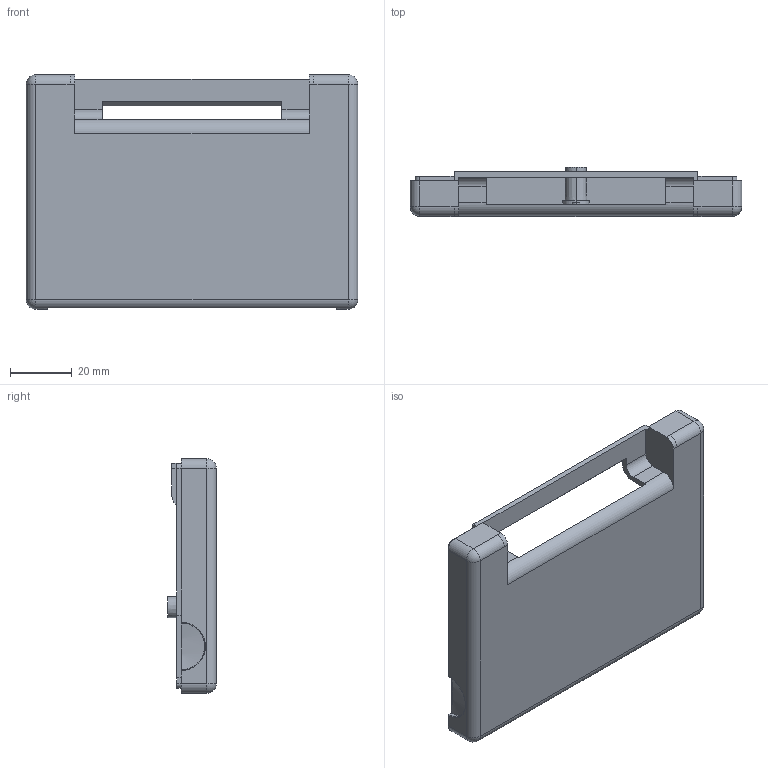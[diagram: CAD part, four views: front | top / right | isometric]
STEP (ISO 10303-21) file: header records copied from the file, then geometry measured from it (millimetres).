
FILE_DESCRIPTION (( 'STEP AP214' ), '1' );
FILE_NAME ('cartBasebotXPv2b.STEP', '2021-11-22T16:38:07', ( '' ), ( '' ), 'SwSTEP 2.0', 'SolidWorks 2010', '' );
FILE_SCHEMA (( 'AUTOMOTIVE_DESIGN' ));
Length unit declared in the file: inch
Products named in the file (1): cartBasebotXPv2b
Bounding box: 107.7 x 15.88 x 76.2 mm (x, y, z)
Volume: 26326.1 mm3; surface area: 23544.5 mm2
Topology: 1 solids, 1 shells, 134 faces, 363 edges, 226 vertices
Faces by surface type: plane 74, cylinder 38, sphere 10, cone 8, torus 4
Entity records: 4175 total; most frequent: DIRECTION 733, CARTESIAN_POINT 716, ORIENTED_EDGE 710, EDGE_CURVE 355, VECTOR 247, LINE 247, AXIS2_PLACEMENT_3D 243, VERTEX_POINT 226
